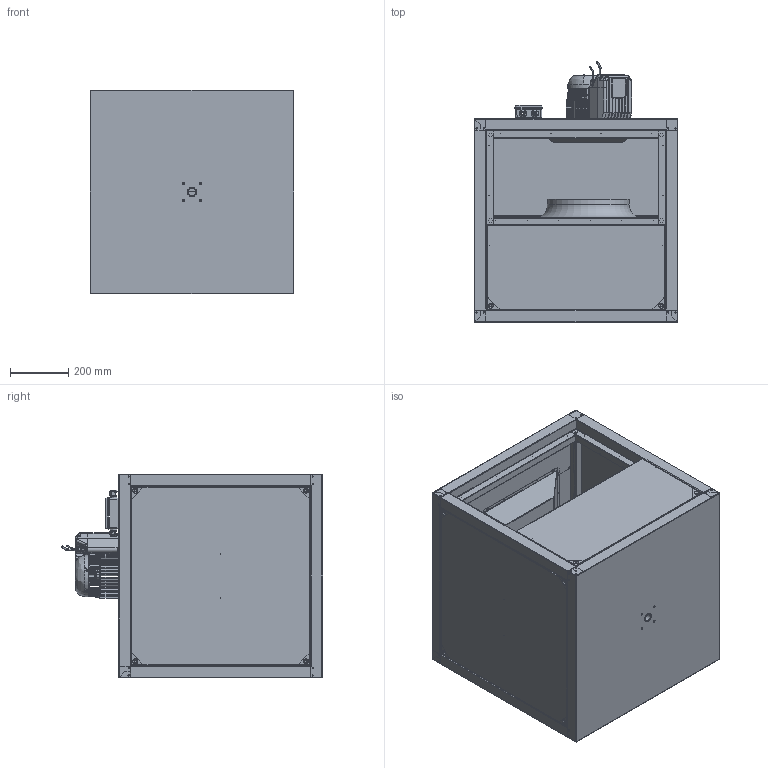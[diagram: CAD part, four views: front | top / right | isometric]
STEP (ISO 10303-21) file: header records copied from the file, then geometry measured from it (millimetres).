
FILE_DESCRIPTION (( 'STEP AP203' ), '1' );
FILE_NAME ('149413-00_MPC450ECTI30_step.step', '2018-10-29T12:22:43', ( '' ), ( '' ), 'SwSTEP 2.0', 'SolidWorks 2017', '' );
FILE_SCHEMA (( 'CONFIG_CONTROL_DESIGN' ));
Products named in the file (1): 149413-00_MPC450ECTI30_step
Bounding box: 700 x 896.85 x 700 mm (x, y, z)
Surface area: 7398950.2 mm2 (no closed solid volume)
Topology: 0 solids, 353 shells, 2297 faces, 10393 edges, 8208 vertices
Faces by surface type: plane 842, cylinder 691, bspline 426, cone 184, torus 154
Entity records: 130714 total; most frequent: CARTESIAN_POINT 51715, DIRECTION 15761, ORIENTED_EDGE 13601, EDGE_CURVE 10378, VERTEX_POINT 8208, AXIS2_PLACEMENT_3D 5646, LINE 4469, VECTOR 4469
